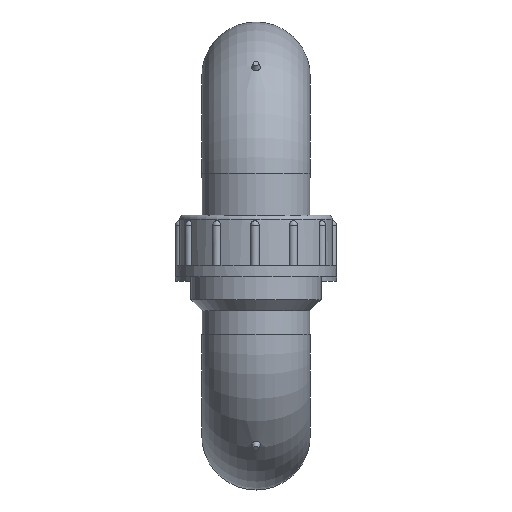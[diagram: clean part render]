
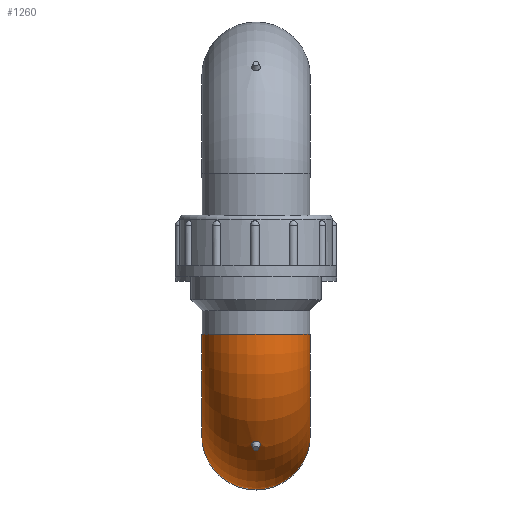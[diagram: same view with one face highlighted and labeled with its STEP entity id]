
A CAD part, left-side view. The second image highlights one B-rep face of the part: STEP entity #1260.
In plain terms, the highlighted toroidal (fillet/blend) face has major radius 70.5 mm and minor radius 37.675 mm.
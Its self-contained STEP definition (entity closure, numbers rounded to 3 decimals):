
#123=TOROIDAL_SURFACE($,#1372,70.5,37.675);
#127=B_SPLINE_CURVE_WITH_KNOTS($,3,(#2032,#2033,#2034,#2035,#2036,#2037,
#2038,#2039,#2040,#2041,#2042,#2043,#2044,#2045,#2046,#2047,#2048,#2049,
#2050,#2051,#2052,#2053,#2054,#2055,#2056,#2057,#2058,#2059,#2060,#2061,
#2062,#2063,#2064,#2065,#2066,#2067,#2068,#2069,#2070,#2071,#2072,#2073,
#2074,#2075,#2076,#2077),.UNSPECIFIED.,.T.,.F.,(4,2,2,2,2,2,2,2,2,2,2,2,
2,2,2,2,2,2,2,2,2,2,4),(-1.95,-1.881,-1.809,
-1.701,-1.578,-1.514,-1.468,
-1.424,-1.367,-1.266,-1.145,
-1.022,-0.902,-0.79,-0.685,
-0.581,-0.524,-0.481,-0.435,
-0.369,-0.247,-0.125,0.),
 .UNSPECIFIED.);
#215=FACE_BOUND($,#362,.T.);
#216=FACE_BOUND($,#363,.T.);
#269=FACE_OUTER_BOUND($,#361,.T.);
#361=EDGE_LOOP($,(#862));
#362=EDGE_LOOP($,(#863));
#363=EDGE_LOOP($,(#864));
#469=CIRCLE($,#1367,37.675);
#472=CIRCLE($,#1373,37.675);
#572=VERTEX_POINT($,#2031);
#573=VERTEX_POINT($,#2080);
#576=VERTEX_POINT($,#2089);
#689=EDGE_CURVE($,#572,#572,#127,.T.);
#690=EDGE_CURVE($,#573,#573,#469,.T.);
#693=EDGE_CURVE($,#576,#576,#472,.T.);
#862=ORIENTED_EDGE($,*,*,#693,.T.);
#863=ORIENTED_EDGE($,*,*,#689,.T.);
#864=ORIENTED_EDGE($,*,*,#690,.F.);
#1260=ADVANCED_FACE($,(#269,#215,#216),#123,.T.);
#1367=AXIS2_PLACEMENT_3D($,#2081,#1609,#1610);
#1372=AXIS2_PLACEMENT_3D($,#2088,#1619,#1620);
#1373=AXIS2_PLACEMENT_3D($,#2090,#1621,#1622);
#1609=DIRECTION('center_axis',(0.,-1.,0.));
#1610=DIRECTION('ref_axis',(1.,0.,0.));
#1619=DIRECTION('center_axis',(0.,0.,-1.));
#1620=DIRECTION('ref_axis',(-1.,0.,0.));
#1621=DIRECTION('center_axis',(-1.,0.,0.));
#1622=DIRECTION('ref_axis',(0.,-1.,0.));
#2031=CARTESIAN_POINT('',(-3.78,219.141,0.));
#2032=CARTESIAN_POINT('Ctrl Pts',(-3.78,219.141,0.));
#2033=CARTESIAN_POINT('Ctrl Pts',(-3.78,219.141,0.229));
#2034=CARTESIAN_POINT('Ctrl Pts',(-3.797,219.122,0.458));
#2035=CARTESIAN_POINT('Ctrl Pts',(-3.865,219.046,0.915));
#2036=CARTESIAN_POINT('Ctrl Pts',(-3.918,218.987,1.142));
#2037=CARTESIAN_POINT('Ctrl Pts',(-4.093,218.794,1.682));
#2038=CARTESIAN_POINT('Ctrl Pts',(-4.235,218.638,1.976));
#2039=CARTESIAN_POINT('Ctrl Pts',(-4.609,218.234,2.514));
#2040=CARTESIAN_POINT('Ctrl Pts',(-4.847,217.981,2.74));
#2041=CARTESIAN_POINT('Ctrl Pts',(-5.249,217.562,2.97));
#2042=CARTESIAN_POINT('Ctrl Pts',(-5.394,217.413,3.028));
#2043=CARTESIAN_POINT('Ctrl Pts',(-5.648,217.154,3.089));
#2044=CARTESIAN_POINT('Ctrl Pts',(-5.755,217.047,3.103));
#2045=CARTESIAN_POINT('Ctrl Pts',(-5.966,216.835,3.108));
#2046=CARTESIAN_POINT('Ctrl Pts',(-6.07,216.732,3.1));
#2047=CARTESIAN_POINT('Ctrl Pts',(-6.308,216.497,3.058));
#2048=CARTESIAN_POINT('Ctrl Pts',(-6.442,216.366,3.016));
#2049=CARTESIAN_POINT('Ctrl Pts',(-6.803,216.017,2.854));
#2050=CARTESIAN_POINT('Ctrl Pts',(-7.021,215.81,2.699));
#2051=CARTESIAN_POINT('Ctrl Pts',(-7.452,215.406,2.258));
#2052=CARTESIAN_POINT('Ctrl Pts',(-7.652,215.222,1.959));
#2053=CARTESIAN_POINT('Ctrl Pts',(-7.963,214.939,1.265));
#2054=CARTESIAN_POINT('Ctrl Pts',(-8.069,214.844,0.874));
#2055=CARTESIAN_POINT('Ctrl Pts',(-8.159,214.763,0.071));
#2056=CARTESIAN_POINT('Ctrl Pts',(-8.146,214.774,-0.332));
#2057=CARTESIAN_POINT('Ctrl Pts',(-8.014,214.894,-1.085));
#2058=CARTESIAN_POINT('Ctrl Pts',(-7.901,214.995,-1.431));
#2059=CARTESIAN_POINT('Ctrl Pts',(-7.603,215.268,-2.032));
#2060=CARTESIAN_POINT('Ctrl Pts',(-7.424,215.433,-2.287));
#2061=CARTESIAN_POINT('Ctrl Pts',(-7.017,215.814,-2.703));
#2062=CARTESIAN_POINT('Ctrl Pts',(-6.792,216.028,-2.862));
#2063=CARTESIAN_POINT('Ctrl Pts',(-6.426,216.382,-3.022));
#2064=CARTESIAN_POINT('Ctrl Pts',(-6.294,216.511,-3.061));
#2065=CARTESIAN_POINT('Ctrl Pts',(-6.058,216.744,-3.102));
#2066=CARTESIAN_POINT('Ctrl Pts',(-5.954,216.846,-3.109));
#2067=CARTESIAN_POINT('Ctrl Pts',(-5.743,217.058,-3.102));
#2068=CARTESIAN_POINT('Ctrl Pts',(-5.636,217.167,-3.087));
#2069=CARTESIAN_POINT('Ctrl Pts',(-5.379,217.429,-3.023));
#2070=CARTESIAN_POINT('Ctrl Pts',(-5.231,217.581,-2.962));
#2071=CARTESIAN_POINT('Ctrl Pts',(-4.83,217.999,-2.726));
#2072=CARTESIAN_POINT('Ctrl Pts',(-4.596,218.248,-2.499));
#2073=CARTESIAN_POINT('Ctrl Pts',(-4.204,218.672,-1.927));
#2074=CARTESIAN_POINT('Ctrl Pts',(-4.05,218.841,-1.587));
#2075=CARTESIAN_POINT('Ctrl Pts',(-3.835,219.078,-0.829));
#2076=CARTESIAN_POINT('Ctrl Pts',(-3.78,219.141,-0.417));
#2077=CARTESIAN_POINT('Ctrl Pts',(-3.78,219.141,0.));
#2080=CARTESIAN_POINT('',(-37.675,140.5,0.));
#2081=CARTESIAN_POINT('Origin',(0.,140.5,0.));
#2088=CARTESIAN_POINT('Origin',(70.5,140.5,0.));
#2089=CARTESIAN_POINT('',(70.5,248.675,0.));
#2090=CARTESIAN_POINT('Origin',(70.5,211.,0.));
